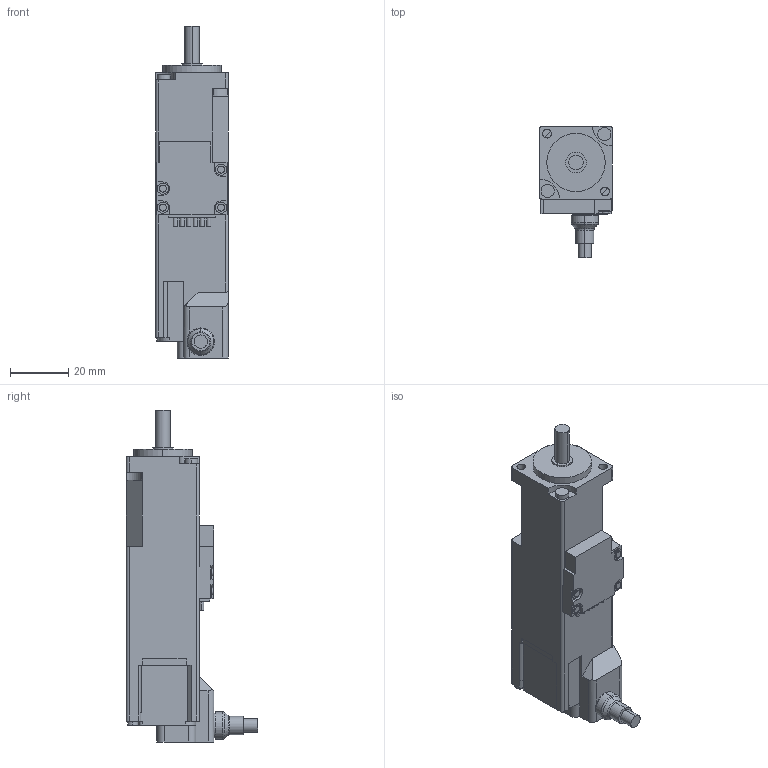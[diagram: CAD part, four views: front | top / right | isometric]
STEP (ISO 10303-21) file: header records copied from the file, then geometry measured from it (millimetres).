
FILE_DESCRIPTION((''),'2;1');
FILE_NAME('HG-AK0236B-S100_ASM','2014-08-28T',('QP99493'),(''),'PRO/ENGINEER BY PARAMETRIC TECHNOLOGY CORPORATION, 2014000','PRO/ENGINEER BY PARAMETRIC TECHNOLOGY CORPORATION, 2014000','');
FILE_SCHEMA(('CONFIG_CONTROL_DESIGN'));
Length unit declared in the file: millimetre
Products named in the file (1): HG-AK0236B-S100_ASM
Bounding box: 25 x 45 x 113.7 mm (x, y, z)
Volume: 62089.8 mm3; surface area: 12434 mm2
Topology: 1 solids, 1 shells, 198 faces, 546 edges, 367 vertices
Faces by surface type: plane 107, cylinder 85, torus 4, cone 2
Entity records: 6449 total; most frequent: CARTESIAN_POINT 1164, DIRECTION 1118, ORIENTED_EDGE 1092, EDGE_CURVE 546, AXIS2_PLACEMENT_3D 382, VERTEX_POINT 367, VECTOR 354, LINE 354
